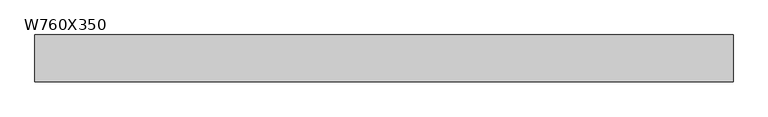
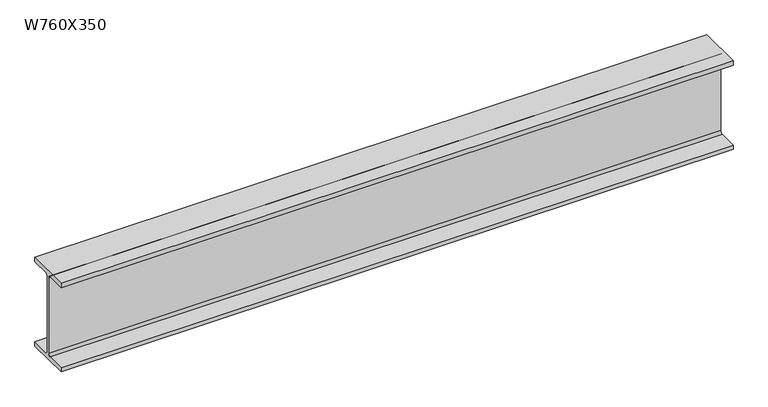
"""IFC4 building model written with IfcOpenShell, lengths in millimetres: beam geometry, M_W-Wide Flange : W760X350."""

from ifc_helpers import new_model, si_unit, point, frame, frame_2d, origin, place, context, project, spatial, polyline, circle_curve, trimmed, segment, composite_curve, outline, extrude, source, transform, mapped, element, save


def w760x350_0a7047ff(model_context):
    return source(origin(), model_context, "Body", "SweptSolid", [
        extrude(outline(composite_curve([segment(polyline([(192.0, -359.4), (192.0, -397.5), (-192.0, -397.5), (-192.0, -359.4), (-32.75, -359.4)]), True, "CONTINUOUS"), segment(trimmed(circle_curve(frame_2d((-32.75, -337.2)), 22.2), [point((-32.75, -359.4))], [point((-10.55, -337.2))], True, "CARTESIAN"), True, "CONTINUOUS"), segment(polyline([(-10.55, -337.2), (-10.55, 337.2)]), True, "CONTINUOUS"), segment(trimmed(circle_curve(frame_2d((-32.75, 337.2)), 22.2), [point((-10.55, 337.2))], [point((-32.75, 359.4))], True, "CARTESIAN"), True, "CONTINUOUS"), segment(polyline([(-32.75, 359.4), (-192.0, 359.4), (-192.0, 397.5), (192.0, 397.5), (192.0, 359.4), (32.75, 359.4)]), True, "CONTINUOUS"), segment(trimmed(circle_curve(frame_2d((32.75, 337.2)), 22.2), [point((32.75, 359.4))], [point((10.55, 337.2))], True, "CARTESIAN"), True, "CONTINUOUS"), segment(polyline([(10.55, 337.2), (10.55, -337.2)]), True, "CONTINUOUS"), segment(trimmed(circle_curve(frame_2d((32.75, -337.2)), 22.2), [point((10.55, -337.2))], [point((32.75, -359.4))], True, "CARTESIAN"), True, "CONTINUOUS"), segment(polyline([(32.75, -359.4), (192.0, -359.4)]), True, "CONTINUOUS")], self_intersect=False)), frame((-2889.3, 0.0, 0.0), z_axis=(1.0, 0.0, 0.0), x_axis=(0.0, 1.0, 0.0)), (0.0, 0.0, 1.0), 5705.66596),
    ])


if __name__ == "__main__":
    model = new_model("IFC4")
    model_context = context("Model", 3, world=origin())
    ifc_project = project(units=[si_unit("LENGTHUNIT", "METRE", prefix="MILLI")], contexts=[model_context])
    site = spatial("IfcSite", under=ifc_project)
    building = spatial("IfcBuilding", under=site)
    placement = place(None, origin())
    w760x350_shape = w760x350_0a7047ff(model_context)
    element("IfcBeam", 1, ObjectType="M_W-Wide Flange : W760X350", at=placement, inside=building, context=model_context, shape_type="MappedRepresentation", body=[
        mapped(w760x350_shape, transform((0.0, 0.0, 0.0), x_axis=(1.0, 0.0, 0.0), y_axis=(0.0, 1.0, 0.0), z_axis=(0.0, 0.0, 1.0))),
    ])
    save(model, "model.ifc")
